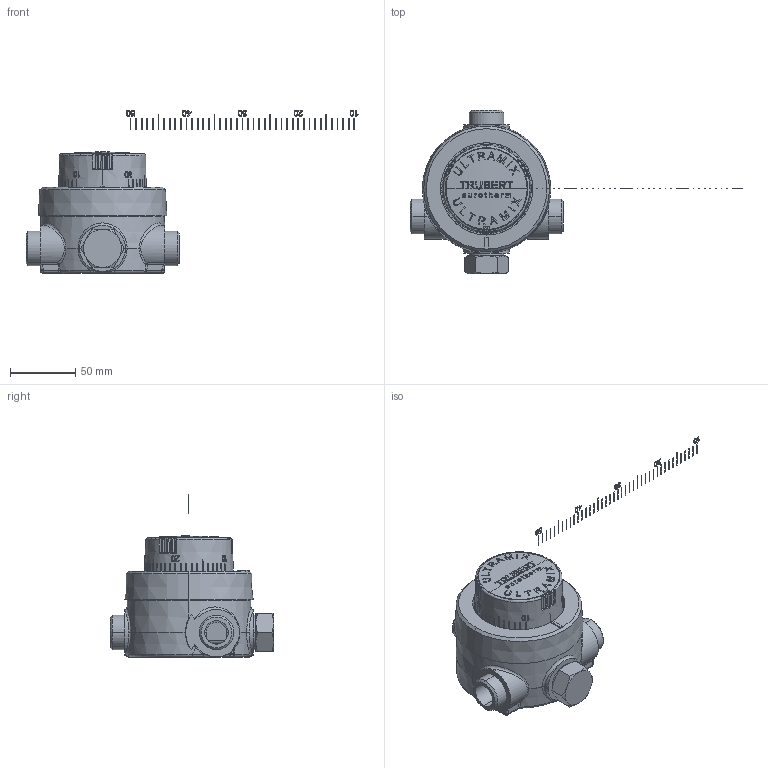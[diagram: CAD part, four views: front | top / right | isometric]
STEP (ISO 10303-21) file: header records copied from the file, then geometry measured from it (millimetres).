
FILE_DESCRIPTION (( 'STEP AP214' ), '1' );
FILE_NAME ('22TX91E_22TX92E.STEP', '2017-12-19T08:56:52', ( '' ), ( '' ), 'SwSTEP 2.0', 'SolidWorks 2017', '' );
FILE_SCHEMA (( 'AUTOMOTIVE_DESIGN' ));
Length unit declared in the file: millimetre
Products named in the file (27): 22100020_22100020; 22019281RI; 23022874; 22108200; 22108024GR; 22108207; 22108019; 22108208; 22108014GR; 22108243U; 22108250; 22110200_22110200; 22014508; 22108211_22108211PE; 22080100_Enveloppe; 22014081; 22TX91E_22TX92E; 22018969; 22014884; 22012560; 22108237; 22108228; 22100720; 22029224; 22100347; 22100330; 22115603
Assembly tree (34 placements, depth 5):
  22TX91E_22TX92E
    22108211_22108211PE
    22080100_Enveloppe
      22110200_22110200
      22029224
        22108243U
        22019281RI
          22108208
          22108207
          22108200
        22100020_22100020
        22115603
        22100330  x2
        22100347
      22100720  x2
      22108228  x2
      22108237
      22012560  x2
      22014884  x2
      22018969  x2
      22014081
    22014508  x2
    22108250
    22108014GR
    22108019  x2
    22108024GR
    23022874
Bounding box: 253.61 x 124.6 x 124.9 mm (x, y, z)
Volume: 256436.7 mm3; surface area: 174743.3 mm2
Topology: 86 solids, 86 shells, 2873 faces, 7178 edges, 4442 vertices
Faces by surface type: plane 1126, bspline 494, cylinder 483, cone 463, torus 197, sphere 110
Entity records: 121926 total; most frequent: CARTESIAN_POINT 52728, ORIENTED_EDGE 13720, DIRECTION 10990, EDGE_CURVE 6860, VERTEX_POINT 4284, AXIS2_PLACEMENT_3D 4249, EDGE_LOOP 2924, FACE_OUTER_BOUND 2751
